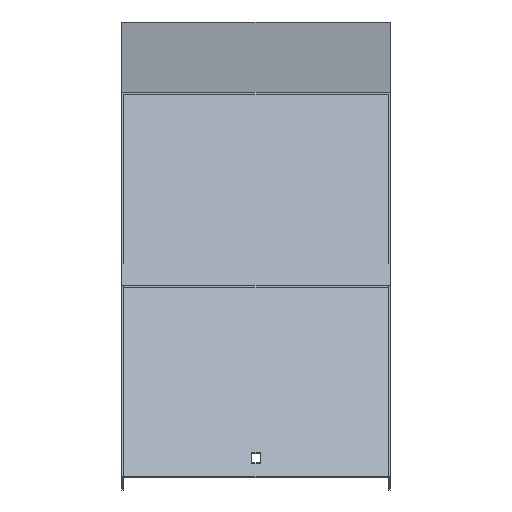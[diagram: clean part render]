
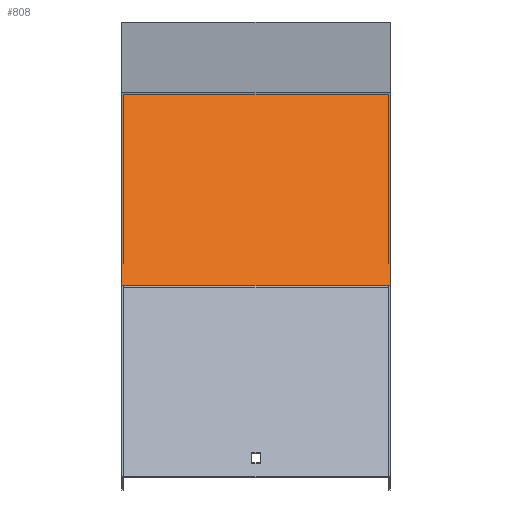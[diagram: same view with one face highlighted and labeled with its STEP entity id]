
A CAD part, top view. The second image highlights one B-rep face of the part: STEP entity #808.
In plain terms, the highlighted planar face has unit normal (0, 0.707, 0.707).
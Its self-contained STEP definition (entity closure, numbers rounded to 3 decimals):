
#48 = ORIENTED_EDGE ( 'NONE', *, *, #428, .F. ) ;
#63 = VECTOR ( 'NONE', #540, 1000. ) ;
#118 = CARTESIAN_POINT ( 'NONE',  ( 101.5, -179.939, 512.937 ) ) ;
#123 = VERTEX_POINT ( 'NONE', #892 ) ;
#141 = CARTESIAN_POINT ( 'NONE',  ( -101.5, -179.939, 512.937 ) ) ;
#193 = EDGE_CURVE ( 'NONE', #123, #952, #623, .T. ) ;
#217 = FACE_OUTER_BOUND ( 'NONE', #839, .T. ) ;
#218 = CARTESIAN_POINT ( 'NONE',  ( 101.5, -179.939, 512.937 ) ) ;
#223 = CARTESIAN_POINT ( 'NONE',  ( -101.5, -33.573, 366.572 ) ) ;
#230 = CARTESIAN_POINT ( 'NONE',  ( -101.5, -37.363, 370.361 ) ) ;
#269 = EDGE_CURVE ( 'NONE', #123, #655, #429, .T. ) ;
#291 = PLANE ( 'NONE',  #637 ) ;
#348 = DIRECTION ( 'NONE',  ( 0., -0.707, 0.707 ) ) ;
#353 = CARTESIAN_POINT ( 'NONE',  ( 101.5, -37.363, 370.361 ) ) ;
#385 = DIRECTION ( 'NONE',  ( 0., -0.707, 0.707 ) ) ;
#410 = LINE ( 'NONE', #230, #736 ) ;
#428 = EDGE_CURVE ( 'NONE', #655, #442, #901, .T. ) ;
#429 = LINE ( 'NONE', #353, #542 ) ;
#442 = VERTEX_POINT ( 'NONE', #141 ) ;
#466 = ORIENTED_EDGE ( 'NONE', *, *, #600, .T. ) ;
#525 = CARTESIAN_POINT ( 'NONE',  ( 101.5, -37.363, 370.361 ) ) ;
#540 = DIRECTION ( 'NONE',  ( -1., 0., 0. ) ) ;
#542 = VECTOR ( 'NONE', #348, 1000. ) ;
#563 = VECTOR ( 'NONE', #884, 1000. ) ;
#600 = EDGE_CURVE ( 'NONE', #952, #442, #410, .T. ) ;
#623 = LINE ( 'NONE', #846, #63 ) ;
#637 = AXIS2_PLACEMENT_3D ( 'NONE', #525, #824, #665 ) ;
#654 = ORIENTED_EDGE ( 'NONE', *, *, #269, .F. ) ;
#655 = VERTEX_POINT ( 'NONE', #118 ) ;
#665 = DIRECTION ( 'NONE',  ( 0., 0.707, -0.707 ) ) ;
#736 = VECTOR ( 'NONE', #385, 1000. ) ;
#808 = ADVANCED_FACE ( 'NONE', ( #217 ), #291, .F. ) ;
#824 = DIRECTION ( 'NONE',  ( 0., -0.707, -0.707 ) ) ;
#839 = EDGE_LOOP ( 'NONE', ( #466, #48, #654, #963 ) ) ;
#846 = CARTESIAN_POINT ( 'NONE',  ( 101.5, -33.573, 366.572 ) ) ;
#884 = DIRECTION ( 'NONE',  ( -1., 0., 0. ) ) ;
#892 = CARTESIAN_POINT ( 'NONE',  ( 101.5, -33.573, 366.572 ) ) ;
#901 = LINE ( 'NONE', #218, #563 ) ;
#952 = VERTEX_POINT ( 'NONE', #223 ) ;
#963 = ORIENTED_EDGE ( 'NONE', *, *, #193, .T. ) ;
